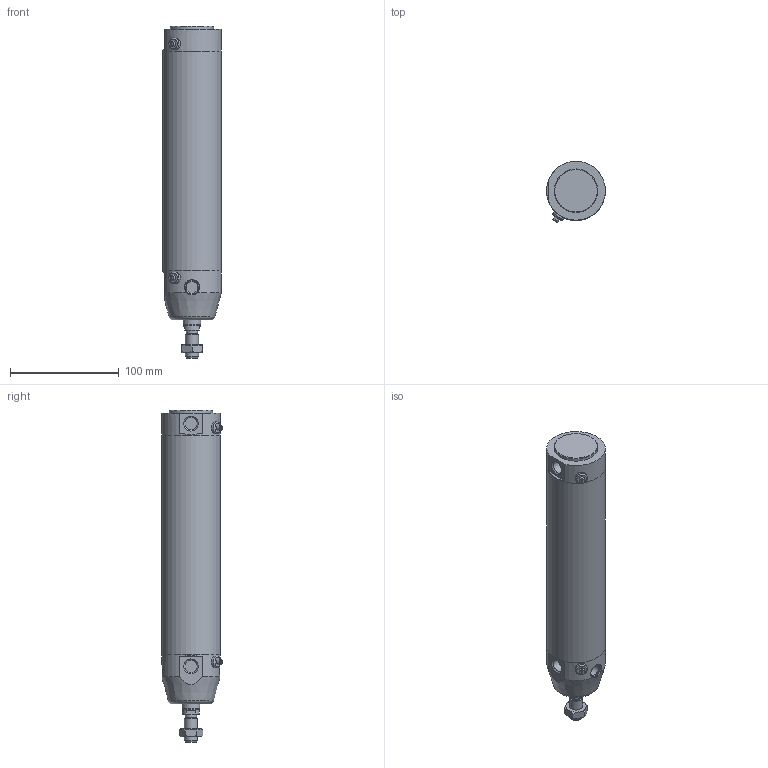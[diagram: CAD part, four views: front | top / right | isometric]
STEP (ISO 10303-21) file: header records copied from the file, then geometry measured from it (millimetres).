
FILE_DESCRIPTION(/* description */ (''),/* implementation_level */ '2;1');
FILE_NAME(/* name */ 'I:\Area Tecnica\Documenti\A-Manieri\_Inventor\12X\12X#E_###_####_#_#\12XBE_050_0160_#_#.stp',/* time_stamp */ '2015-05-08T13:58:04+02:00',/* author */ ('maniean1'),/* organization */ ('Pneumax S.p.A.'),/* preprocessor_version */ 'ST-DEVELOPER v15.2',/* originating_system */ 'Autodesk Inventor 2014',/* authorisation */ '');
FILE_SCHEMA (('AUTOMOTIVE_DESIGN { 1 0 10303 214 3 1 1 }'));
Length unit declared in the file: millimetre
Products named in the file (6): C1250_619-0160; 12X50_623; S12X50_0160; 12X_50_11; 12X50_612; 12XBE_050_0160_#_#
Bounding box: 54 x 55.88 x 305 mm (x, y, z)
Volume: 323856.1 mm3; surface area: 112219.2 mm2
Topology: 5 solids, 5 shells, 83 faces, 174 edges, 112 vertices
Faces by surface type: plane 45, cylinder 22, cone 13, torus 3
Full cylindrical faces by diameter (mm): 5 x2, 10.2 x1, 10.9 x2, 11 x2, 11.4 x2, 12 x2, 14 x1, 14.1 x2, 15.6 x1, 16 x1, 40 x1, 50 x2, 54 x3
Entity records: 2203 total; most frequent: CARTESIAN_POINT 508, DIRECTION 359, ORIENTED_EDGE 254, AXIS2_PLACEMENT_3D 161, EDGE_LOOP 136, EDGE_CURVE 127, VERTEX_POINT 101, ADVANCED_FACE 83
